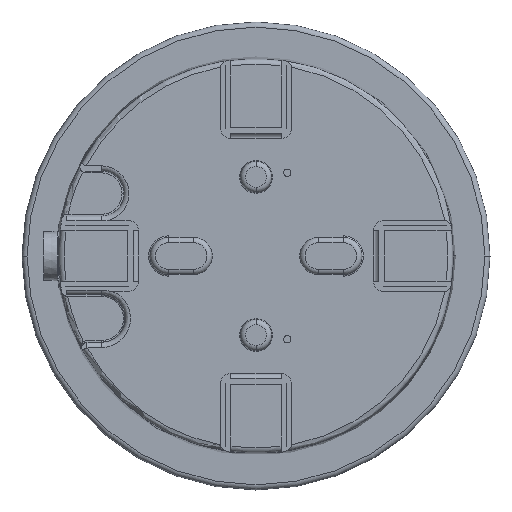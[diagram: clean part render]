
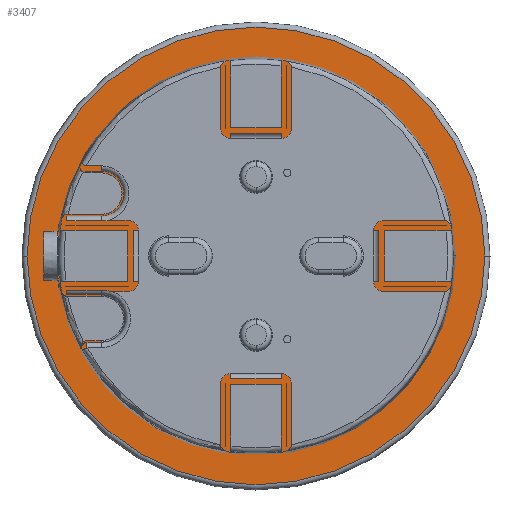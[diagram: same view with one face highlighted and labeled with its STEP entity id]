
A CAD part, front view. The second image highlights one B-rep face of the part: STEP entity #3407.
In plain terms, the highlighted planar face has unit normal (0, -1, 0).
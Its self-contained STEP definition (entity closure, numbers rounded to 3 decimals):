
#733=CARTESIAN_POINT('',(0.,26.,0.));
#734=DIRECTION('',(0.,-1.,0.));
#735=DIRECTION('',(1.,0.,0.));
#736=AXIS2_PLACEMENT_3D('',#733,#734,#735);
#738=CARTESIAN_POINT('',(0.,26.,0.));
#739=DIRECTION('',(0.,-1.,0.));
#740=DIRECTION('',(-1.,0.,0.));
#741=AXIS2_PLACEMENT_3D('',#738,#739,#740);
#2747=CARTESIAN_POINT('',(109.916,26.,0.));
#2748=CARTESIAN_POINT('',(-109.916,26.,0.));
#2749=VERTEX_POINT('',#2747);
#2750=VERTEX_POINT('',#2748);
#3396=CARTESIAN_POINT('',(0.,26.,0.));
#3397=DIRECTION('',(0.,-1.,0.));
#3398=DIRECTION('',(1.,0.,0.));
#3399=AXIS2_PLACEMENT_3D('',#3396,#3397,#3398);
#3400=PLANE('',#3399);
#3402=ORIENTED_EDGE('',*,*,#3401,.F.);
#3404=ORIENTED_EDGE('',*,*,#3403,.F.);
#3405=EDGE_LOOP('',(#3402,#3404));
#3406=FACE_OUTER_BOUND('',#3405,.F.);
#3407=ADVANCED_FACE('',(#3406),#3400,.T.);
#737=CIRCLE('',#736,109.916);
#742=CIRCLE('',#741,109.916);
#3401=EDGE_CURVE('',#2749,#2750,#737,.T.);
#3403=EDGE_CURVE('',#2750,#2749,#742,.T.);
